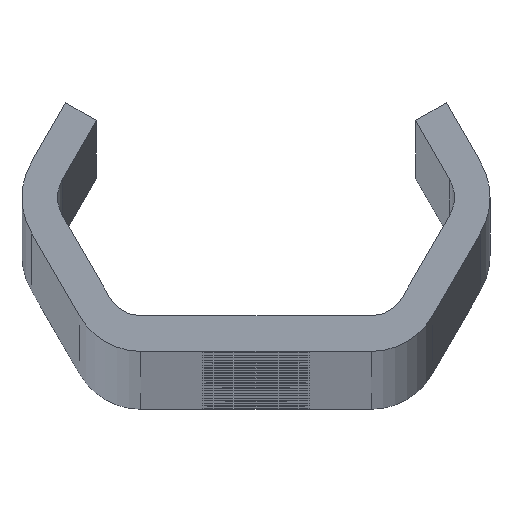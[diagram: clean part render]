
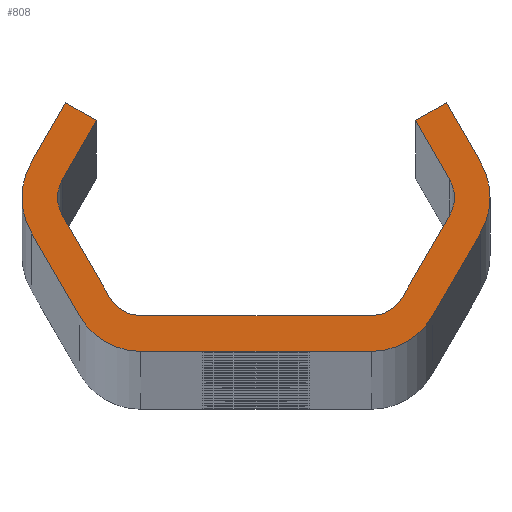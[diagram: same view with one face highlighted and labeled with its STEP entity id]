
A CAD part, top view. The second image highlights one B-rep face of the part: STEP entity #808.
In plain terms, the highlighted planar face has unit normal (0, 0, 1).
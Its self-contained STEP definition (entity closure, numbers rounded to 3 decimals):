
#808=ADVANCED_FACE('NONE',(#2255),#2256,.F.);
#2255=FACE_OUTER_BOUND('',#7355,.T.);
#2256=PLANE('',#7356);
#7355=EDGE_LOOP('',(#14916,#14917,#14918,#14919,#14920,#14921,#14922,#14923,#14924,#14925,#14926,#14927,#14928,#14929,#14930,#14931,#14932,#14933,#14934,#14935,#14936,#14937,#14938,#14939));
#7356=AXIS2_PLACEMENT_3D('',#14940,#14941,#14942);
#14916=ORIENTED_EDGE('',*,*,#19917,.T.);
#14917=ORIENTED_EDGE('',*,*,#19963,.T.);
#14918=ORIENTED_EDGE('',*,*,#19503,.T.);
#14919=ORIENTED_EDGE('',*,*,#19919,.T.);
#14920=ORIENTED_EDGE('',*,*,#19964,.T.);
#14921=ORIENTED_EDGE('',*,*,#19923,.T.);
#14922=ORIENTED_EDGE('',*,*,#19965,.T.);
#14923=ORIENTED_EDGE('',*,*,#19510,.T.);
#14924=ORIENTED_EDGE('',*,*,#19966,.T.);
#14925=ORIENTED_EDGE('',*,*,#19141,.T.);
#14926=ORIENTED_EDGE('',*,*,#19513,.T.);
#14927=ORIENTED_EDGE('',*,*,#19519,.T.);
#14928=ORIENTED_EDGE('',*,*,#19522,.T.);
#14929=ORIENTED_EDGE('',*,*,#19500,.T.);
#14930=ORIENTED_EDGE('',*,*,#19967,.T.);
#14931=ORIENTED_EDGE('',*,*,#19524,.T.);
#14932=ORIENTED_EDGE('',*,*,#19968,.T.);
#14933=ORIENTED_EDGE('',*,*,#19531,.T.);
#14934=ORIENTED_EDGE('',*,*,#19969,.T.);
#14935=ORIENTED_EDGE('',*,*,#19904,.T.);
#14936=ORIENTED_EDGE('',*,*,#19970,.T.);
#14937=ORIENTED_EDGE('',*,*,#19136,.T.);
#14938=ORIENTED_EDGE('',*,*,#19907,.T.);
#14939=ORIENTED_EDGE('',*,*,#19913,.T.);
#14940=CARTESIAN_POINT('',(0.0,0.0,2800.0));
#14941=DIRECTION('',(0.0,0.0,-1.0));
#14942=DIRECTION('',(0.0,-1.0,0.0));
#19136=EDGE_CURVE('NONE',#21322,#21326,#21328,.T.);
#19141=EDGE_CURVE('NONE',#21331,#21335,#21337,.T.);
#19500=EDGE_CURVE('NONE',#21983,#21981,#21984,.T.);
#19503=EDGE_CURVE('NONE',#21987,#21988,#21989,.T.);
#19510=EDGE_CURVE('NONE',#22001,#21999,#22002,.T.);
#19513=EDGE_CURVE('NONE',#21335,#22005,#22006,.T.);
#19519=EDGE_CURVE('NONE',#22005,#22013,#22015,.T.);
#19522=EDGE_CURVE('NONE',#22013,#21983,#22018,.T.);
#19524=EDGE_CURVE('NONE',#22020,#22021,#22022,.T.);
#19531=EDGE_CURVE('NONE',#22034,#22032,#22035,.T.);
#19904=EDGE_CURVE('NONE',#22726,#22724,#22727,.T.);
#19907=EDGE_CURVE('NONE',#21326,#22730,#22731,.T.);
#19913=EDGE_CURVE('NONE',#22730,#22738,#22740,.T.);
#19917=EDGE_CURVE('NONE',#22738,#22744,#22746,.T.);
#19919=EDGE_CURVE('NONE',#21988,#22748,#22749,.T.);
#19923=EDGE_CURVE('NONE',#22754,#22755,#22756,.T.);
#19963=EDGE_CURVE('NONE',#22744,#21987,#22798,.T.);
#19964=EDGE_CURVE('NONE',#22748,#22754,#22799,.T.);
#19965=EDGE_CURVE('NONE',#22755,#22001,#22800,.T.);
#19966=EDGE_CURVE('NONE',#21999,#21331,#22801,.T.);
#19967=EDGE_CURVE('NONE',#21981,#22020,#22802,.T.);
#19968=EDGE_CURVE('NONE',#22021,#22034,#22803,.T.);
#19969=EDGE_CURVE('NONE',#22032,#22726,#22804,.T.);
#19970=EDGE_CURVE('NONE',#22724,#21322,#22805,.T.);
#21322=VERTEX_POINT('',#24562);
#21326=VERTEX_POINT('NONE',#24567);
#21328=CIRCLE('',#24570,3.0);
#21331=VERTEX_POINT('',#24573);
#21335=VERTEX_POINT('NONE',#24578);
#21337=CIRCLE('',#24581,6.0);
#21981=VERTEX_POINT('NONE',#28445);
#21983=VERTEX_POINT('NONE',#28448);
#21984=CIRCLE('',#28449,3.0);
#21987=VERTEX_POINT('NONE',#28453);
#21988=VERTEX_POINT('NONE',#28454);
#21989=CIRCLE('',#28455,6.0);
#21999=VERTEX_POINT('NONE',#28468);
#22001=VERTEX_POINT('NONE',#28471);
#22002=LINE('',#28472,#28473);
#22005=VERTEX_POINT('NONE',#28477);
#22006=LINE('',#28478,#28479);
#22013=VERTEX_POINT('NONE',#28489);
#22015=LINE('',#28492,#28493);
#22018=LINE('',#28497,#28498);
#22020=VERTEX_POINT('NONE',#28500);
#22021=VERTEX_POINT('NONE',#28501);
#22022=LINE('',#28502,#28503);
#22032=VERTEX_POINT('NONE',#28517);
#22034=VERTEX_POINT('NONE',#28520);
#22035=LINE('',#28521,#28522);
#22724=VERTEX_POINT('NONE',#31013);
#22726=VERTEX_POINT('NONE',#31016);
#22727=LINE('',#31017,#31018);
#22730=VERTEX_POINT('NONE',#31022);
#22731=LINE('',#31023,#31024);
#22738=VERTEX_POINT('NONE',#31034);
#22740=LINE('',#31037,#31038);
#22744=VERTEX_POINT('NONE',#31043);
#22746=LINE('',#31046,#31047);
#22748=VERTEX_POINT('NONE',#31049);
#22749=LINE('',#31050,#31051);
#22754=VERTEX_POINT('NONE',#31058);
#22755=VERTEX_POINT('NONE',#31059);
#22756=LINE('',#31060,#31061);
#22798=CIRCLE('',#31106,6.0);
#22799=CIRCLE('',#31107,6.0);
#22800=CIRCLE('',#31108,6.0);
#22801=CIRCLE('',#31109,6.0);
#22802=CIRCLE('',#31110,3.0);
#22803=CIRCLE('',#31111,3.0);
#22804=CIRCLE('',#31112,3.0);
#22805=CIRCLE('',#31113,3.0);
#24562=CARTESIAN_POINT('',(-16.764,0.,2800.0));
#24567=CARTESIAN_POINT('',(-16.362,1.5,2800.0));
#24570=AXIS2_PLACEMENT_3D('',#36923,#36924,#36925);
#24573=CARTESIAN_POINT('',(19.764,0.,2800.0));
#24578=CARTESIAN_POINT('',(18.96,3.,2800.0));
#24581=AXIS2_PLACEMENT_3D('',#36931,#36932,#36933);
#28445=CARTESIAN_POINT('',(16.764,0.,2800.0));
#28448=CARTESIAN_POINT('',(16.362,1.5,2800.0));
#28449=AXIS2_PLACEMENT_3D('',#37290,#37291,#37292);
#28453=CARTESIAN_POINT('',(-19.764,0.,2800.0));
#28454=CARTESIAN_POINT('',(-18.96,-3.,2800.0));
#28455=AXIS2_PLACEMENT_3D('',#37294,#37295,#37296);
#28468=CARTESIAN_POINT('',(18.96,-3.,2800.0));
#28471=CARTESIAN_POINT('',(14.919,-10.,2800.0));
#28472=CARTESIAN_POINT('',(20.692,0.,2800.0));
#28473=VECTOR('',#37304,1000.0);
#28477=CARTESIAN_POINT('',(16.074,8.,2800.0));
#28478=CARTESIAN_POINT('',(16.074,8.,2800.0));
#28479=VECTOR('',#37306,1000.0);
#28489=CARTESIAN_POINT('',(13.475,6.5,2800.0));
#28492=CARTESIAN_POINT('',(13.475,6.5,2800.0));
#28493=VECTOR('',#37311,1000.0);
#28497=CARTESIAN_POINT('',(17.228,0.,2800.0));
#28498=VECTOR('',#37313,1000.0);
#28500=CARTESIAN_POINT('',(16.362,-1.5,2800.0));
#28501=CARTESIAN_POINT('',(12.321,-8.5,2800.0));
#28502=CARTESIAN_POINT('',(11.455,-10.0,2800.0));
#28503=VECTOR('',#37314,1000.0);
#28517=CARTESIAN_POINT('',(-9.723,-10.0,2800.0));
#28520=CARTESIAN_POINT('',(9.723,-10.0,2800.0));
#28521=CARTESIAN_POINT('',(-11.455,-10.0,2800.0));
#28522=VECTOR('',#37320,1000.0);
#31013=CARTESIAN_POINT('',(-16.362,-1.5,2800.0));
#31016=CARTESIAN_POINT('',(-12.321,-8.5,2800.0));
#31017=CARTESIAN_POINT('',(-17.228,0.,2800.0));
#31018=VECTOR('',#37726,1000.0);
#31022=CARTESIAN_POINT('',(-13.475,6.5,2800.0));
#31023=CARTESIAN_POINT('',(-13.475,6.5,2800.0));
#31024=VECTOR('',#37728,1000.0);
#31034=CARTESIAN_POINT('',(-16.074,8.,2800.0));
#31037=CARTESIAN_POINT('',(-13.475,6.5,2800.0));
#31038=VECTOR('',#37733,1000.0);
#31043=CARTESIAN_POINT('',(-18.96,3.,2800.0));
#31046=CARTESIAN_POINT('',(-16.074,8.,2800.0));
#31047=VECTOR('',#37736,1000.0);
#31049=CARTESIAN_POINT('',(-14.919,-10.,2800.0));
#31050=CARTESIAN_POINT('',(-20.692,0.,2800.0));
#31051=VECTOR('',#37737,1000.0);
#31058=CARTESIAN_POINT('',(-9.723,-13.0,2800.0));
#31059=CARTESIAN_POINT('',(9.723,-13.0,2800.0));
#31060=CARTESIAN_POINT('',(-13.187,-13.0,2800.0));
#31061=VECTOR('',#37740,1000.0);
#31106=AXIS2_PLACEMENT_3D('',#37849,#37850,#37851);
#31107=AXIS2_PLACEMENT_3D('',#37852,#37853,#37854);
#31108=AXIS2_PLACEMENT_3D('',#37855,#37856,#37857);
#31109=AXIS2_PLACEMENT_3D('',#37858,#37859,#37860);
#31110=AXIS2_PLACEMENT_3D('',#37861,#37862,#37863);
#31111=AXIS2_PLACEMENT_3D('',#37864,#37865,#37866);
#31112=AXIS2_PLACEMENT_3D('',#37867,#37868,#37869);
#31113=AXIS2_PLACEMENT_3D('',#37870,#37871,#37872);
#36923=CARTESIAN_POINT('',(-13.764,0.,2800.0));
#36924=DIRECTION('',(0.0,0.0,-1.0));
#36925=DIRECTION('',(-1.0,0.0,0.0));
#36931=CARTESIAN_POINT('',(13.764,0.,2800.0));
#36932=DIRECTION('',(0.0,0.0,1.0));
#36933=DIRECTION('',(-1.0,0.0,0.0));
#37290=CARTESIAN_POINT('',(13.764,0.,2800.0));
#37291=DIRECTION('',(0.0,0.0,-1.0));
#37292=DIRECTION('',(-1.0,0.0,0.0));
#37294=CARTESIAN_POINT('',(-13.764,0.,2800.0));
#37295=DIRECTION('',(0.0,0.0,1.0));
#37296=DIRECTION('',(-1.0,0.0,0.0));
#37304=DIRECTION('',(0.5,0.866,-0.0));
#37306=DIRECTION('',(-0.5,0.866,-0.0));
#37311=DIRECTION('',(-0.866,-0.5,-0.0));
#37313=DIRECTION('',(0.5,-0.866,-0.0));
#37314=DIRECTION('',(-0.5,-0.866,-0.0));
#37320=DIRECTION('',(-1.0,0.,-0.0));
#37726=DIRECTION('',(-0.5,0.866,-0.0));
#37728=DIRECTION('',(0.5,0.866,-0.0));
#37733=DIRECTION('',(-0.866,0.5,0.0));
#37736=DIRECTION('',(-0.5,-0.866,0.0));
#37737=DIRECTION('',(0.5,-0.866,0.0));
#37740=DIRECTION('',(1.0,0.0,0.0));
#37849=CARTESIAN_POINT('',(-13.764,0.,2800.0));
#37850=DIRECTION('',(0.0,0.0,1.0));
#37851=DIRECTION('',(-1.0,0.0,0.0));
#37852=CARTESIAN_POINT('',(-9.723,-7.0,2800.0));
#37853=DIRECTION('',(0.0,0.0,1.0));
#37854=DIRECTION('',(-1.0,0.0,0.0));
#37855=CARTESIAN_POINT('',(9.723,-7.0,2800.0));
#37856=DIRECTION('',(0.0,0.0,1.0));
#37857=DIRECTION('',(-1.0,0.,0.0));
#37858=CARTESIAN_POINT('',(13.764,0.,2800.0));
#37859=DIRECTION('',(0.0,0.0,1.0));
#37860=DIRECTION('',(-1.0,0.0,0.0));
#37861=CARTESIAN_POINT('',(13.764,0.,2800.0));
#37862=DIRECTION('',(0.0,0.0,-1.0));
#37863=DIRECTION('',(-1.0,0.0,0.0));
#37864=CARTESIAN_POINT('',(9.723,-7.0,2800.0));
#37865=DIRECTION('',(0.0,0.0,-1.0));
#37866=DIRECTION('',(-1.0,0.0,0.0));
#37867=CARTESIAN_POINT('',(-9.723,-7.0,2800.0));
#37868=DIRECTION('',(0.0,0.0,-1.0));
#37869=DIRECTION('',(-1.0,0.0,0.0));
#37870=CARTESIAN_POINT('',(-13.764,0.,2800.0));
#37871=DIRECTION('',(0.0,0.0,-1.0));
#37872=DIRECTION('',(-1.0,0.0,0.0));
